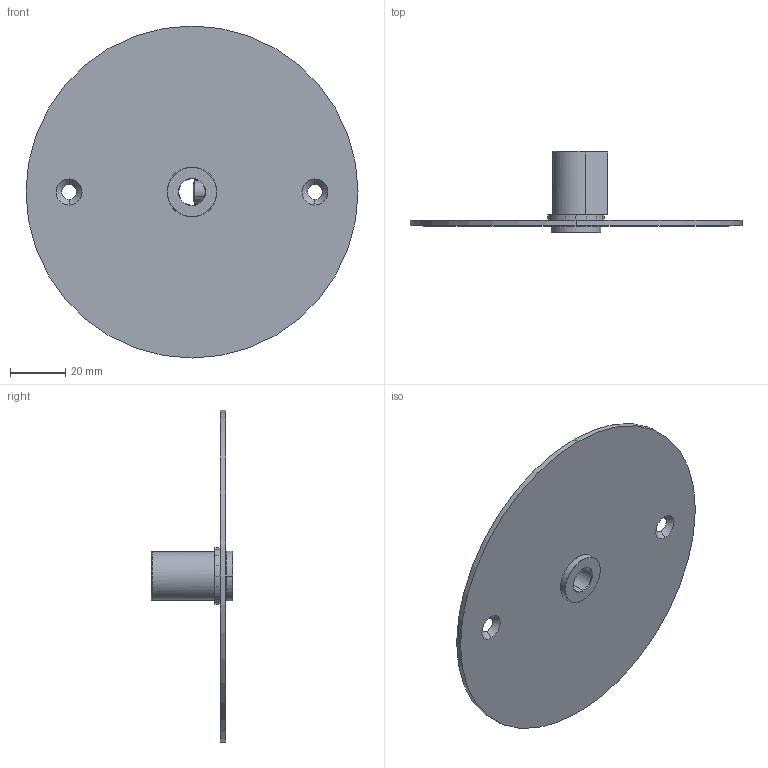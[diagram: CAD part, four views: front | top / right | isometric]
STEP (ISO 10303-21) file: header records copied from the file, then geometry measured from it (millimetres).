
FILE_DESCRIPTION (( 'STEP AP203' ), '1' );
FILE_NAME ('ACCANOPYIN001BC.STEP', '2023-09-14T07:08:32', ( '' ), ( '' ), 'SwSTEP 2.0', 'SolidWorks 2023', '' );
FILE_SCHEMA (( 'CONFIG_CONTROL_DESIGN' ));
Length unit declared in the file: millimetre
Products named in the file (6): WSA5088-11-2-6----_WSA5088-11-2-6----; ACCANOPYIN001BC; WSCM2A0021-0700-00; WSCM2C0159-0100-00; WSA5127-2-6-0-----_WSA5127-2-6-0-----; WSMCROA13--20-0141_WSMCROA13--20-0141
Assembly tree (5 placements, depth 2):
  ACCANOPYIN001BC
    WSCM2C0159-0100-00
    WSCM2A0021-0700-00
    WSMCROA13--20-0141_WSMCROA13--20-0141
    WSA5127-2-6-0-----_WSA5127-2-6-0-----
    WSA5088-11-2-6----_WSA5088-11-2-6----
Bounding box: 120 x 29.5 x 120 mm (x, y, z)
Volume: 27576.4 mm3; surface area: 28449.5 mm2
Topology: 5 solids, 5 shells, 201 faces, 543 edges, 320 vertices
Faces by surface type: plane 88, bspline 46, cylinder 37, cone 18, torus 6, sphere 6
Entity records: 8024 total; most frequent: CARTESIAN_POINT 2770, ORIENTED_EDGE 1010, DIRECTION 872, EDGE_CURVE 505, VERTEX_POINT 320, AXIS2_PLACEMENT_3D 298, LINE 276, VECTOR 276
